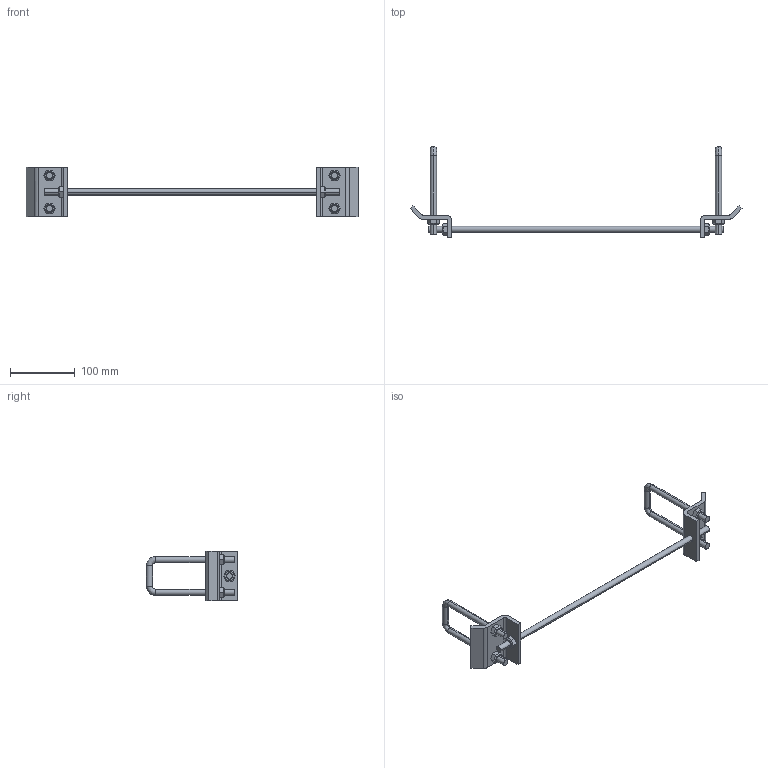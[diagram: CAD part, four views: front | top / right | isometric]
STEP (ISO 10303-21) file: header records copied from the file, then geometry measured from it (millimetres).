
FILE_DESCRIPTION(('TurboCAD Mac Pro'),'Build 980');
FILE_NAME('P2868A-18.stp',' ',(''),(''),'ACIS Interop','IMSI','TurboCAD Mac Pro BY IMSI, INCORPORATED');
FILE_SCHEMA(('automotive_design'));
Length unit declared in the file: inch
Products named in the file (11): 1; 2; 3; 4; 5; 6; 7; 8; 9; 10; 11
Bounding box: 513.8 x 141.31 x 76.2 mm (x, y, z)
Volume: 171606.1 mm3; surface area: 71509.6 mm2
Topology: 11 solids, 11 shells, 176 faces, 410 edges, 256 vertices
Faces by surface type: plane 110, bspline 40, cylinder 26
Entity records: 9060 total; most frequent: CARTESIAN_POINT 1837, ORIENTED_EDGE 820, DIRECTION 692, STYLED_ITEM 533, PRESENTATION_STYLE_ASSIGNMENT 533, COLOUR_RGB 533, EDGE_CURVE 410, CURVE_STYLE 346
